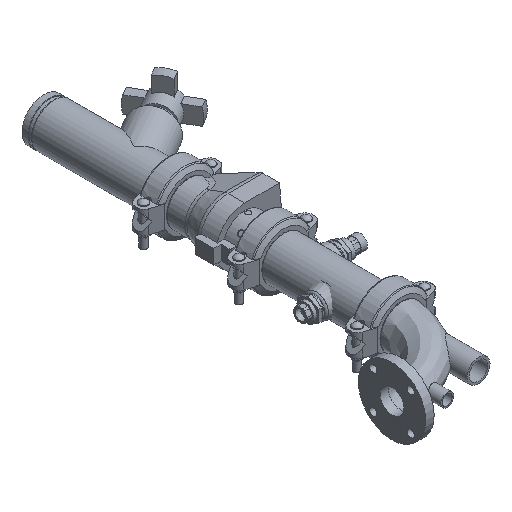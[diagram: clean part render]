
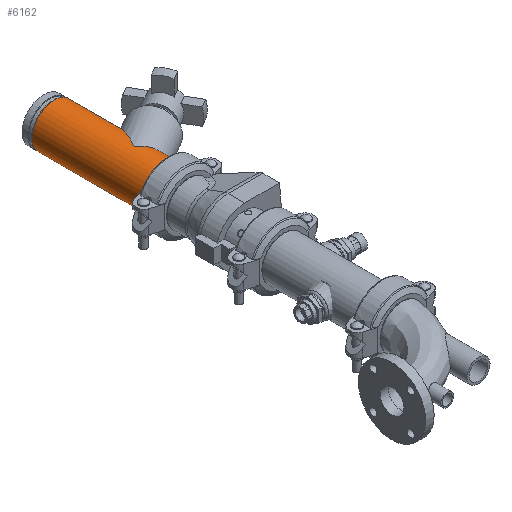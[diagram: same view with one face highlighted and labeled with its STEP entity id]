
A CAD part, isometric view. The second image highlights one B-rep face of the part: STEP entity #6162.
In plain terms, the highlighted cylindrical face has radius 57.15 mm (diameter 114.3 mm), a full revolution.
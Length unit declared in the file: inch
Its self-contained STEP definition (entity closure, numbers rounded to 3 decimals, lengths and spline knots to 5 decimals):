
#126=ELLIPSE('',#6725,4.5,2.25);
#127=ELLIPSE('',#6726,2.59808,2.25);
#128=ELLIPSE('',#6729,2.59808,2.25);
#129=ELLIPSE('',#6730,4.5,2.25);
#217=LINE('',#9472,#668);
#218=LINE('',#9478,#669);
#668=VECTOR('',#7581,2.25);
#669=VECTOR('',#7586,2.25);
#1090=CYLINDRICAL_SURFACE('',#6722,2.25);
#1292=FACE_OUTER_BOUND('',#1637,.T.);
#1637=EDGE_LOOP('',(#3981,#3982,#3983,#3984,#3985,#3986,#3987,#3988,#3989,
#3990,#3991,#3992));
#2051=CIRCLE('',#6723,2.25);
#2052=CIRCLE('',#6724,2.25);
#2053=CIRCLE('',#6727,2.25);
#2054=CIRCLE('',#6728,2.25);
#2419=VERTEX_POINT('',#9467);
#2420=VERTEX_POINT('',#9468);
#2421=VERTEX_POINT('',#9471);
#2422=VERTEX_POINT('',#9473);
#2423=VERTEX_POINT('',#9475);
#2424=VERTEX_POINT('',#9477);
#2425=VERTEX_POINT('',#9479);
#2426=VERTEX_POINT('',#9482);
#3036=EDGE_CURVE('',#2419,#2420,#2051,.T.);
#3037=EDGE_CURVE('',#2420,#2419,#2052,.T.);
#3038=EDGE_CURVE('',#2420,#2421,#217,.T.);
#3039=EDGE_CURVE('',#2421,#2422,#126,.T.);
#3040=EDGE_CURVE('',#2422,#2423,#127,.T.);
#3041=EDGE_CURVE('',#2423,#2424,#218,.T.);
#3042=EDGE_CURVE('',#2424,#2425,#2053,.T.);
#3043=EDGE_CURVE('',#2425,#2424,#2054,.T.);
#3044=EDGE_CURVE('',#2423,#2426,#128,.T.);
#3045=EDGE_CURVE('',#2426,#2421,#129,.T.);
#3981=ORIENTED_EDGE('',*,*,#3036,.F.);
#3982=ORIENTED_EDGE('',*,*,#3037,.F.);
#3983=ORIENTED_EDGE('',*,*,#3038,.T.);
#3984=ORIENTED_EDGE('',*,*,#3039,.T.);
#3985=ORIENTED_EDGE('',*,*,#3040,.T.);
#3986=ORIENTED_EDGE('',*,*,#3041,.T.);
#3987=ORIENTED_EDGE('',*,*,#3042,.T.);
#3988=ORIENTED_EDGE('',*,*,#3043,.T.);
#3989=ORIENTED_EDGE('',*,*,#3041,.F.);
#3990=ORIENTED_EDGE('',*,*,#3044,.T.);
#3991=ORIENTED_EDGE('',*,*,#3045,.T.);
#3992=ORIENTED_EDGE('',*,*,#3038,.F.);
#6162=ADVANCED_FACE('',(#1292),#1090,.T.);
#6722=AXIS2_PLACEMENT_3D('',#9466,#7575,#7576);
#6723=AXIS2_PLACEMENT_3D('',#9469,#7577,#7578);
#6724=AXIS2_PLACEMENT_3D('',#9470,#7579,#7580);
#6725=AXIS2_PLACEMENT_3D('',#9474,#7582,#7583);
#6726=AXIS2_PLACEMENT_3D('',#9476,#7584,#7585);
#6727=AXIS2_PLACEMENT_3D('',#9480,#7587,#7588);
#6728=AXIS2_PLACEMENT_3D('',#9481,#7589,#7590);
#6729=AXIS2_PLACEMENT_3D('',#9483,#7591,#7592);
#6730=AXIS2_PLACEMENT_3D('',#9484,#7593,#7594);
#7575=DIRECTION('center_axis',(1.,0.,0.));
#7576=DIRECTION('ref_axis',(0.,1.,0.));
#7577=DIRECTION('center_axis',(1.,0.,0.));
#7578=DIRECTION('ref_axis',(0.,0.,-1.));
#7579=DIRECTION('center_axis',(1.,0.,0.));
#7580=DIRECTION('ref_axis',(0.,0.,-1.));
#7581=DIRECTION('',(-1.,0.,0.));
#7582=DIRECTION('center_axis',(0.5,0.866,0.));
#7583=DIRECTION('ref_axis',(-0.866,0.5,0.));
#7584=DIRECTION('center_axis',(-0.866,0.5,0.));
#7585=DIRECTION('ref_axis',(-0.5,-0.866,0.));
#7586=DIRECTION('',(-1.,0.,0.));
#7587=DIRECTION('center_axis',(1.,0.,0.));
#7588=DIRECTION('ref_axis',(0.,0.,-1.));
#7589=DIRECTION('center_axis',(1.,0.,0.));
#7590=DIRECTION('ref_axis',(0.,0.,-1.));
#7591=DIRECTION('center_axis',(-0.866,0.5,0.));
#7592=DIRECTION('ref_axis',(-0.5,-0.866,0.));
#7593=DIRECTION('center_axis',(0.5,0.866,0.));
#7594=DIRECTION('ref_axis',(-0.866,0.5,0.));
#9466=CARTESIAN_POINT('Origin',(0.,0.,0.));
#9467=CARTESIAN_POINT('',(5.875,2.25,0.));
#9468=CARTESIAN_POINT('',(5.875,-2.25,0.));
#9469=CARTESIAN_POINT('Origin',(5.875,0.,0.));
#9470=CARTESIAN_POINT('Origin',(5.875,0.,0.));
#9471=CARTESIAN_POINT('',(1.35625,-2.25,0.));
#9472=CARTESIAN_POINT('',(0.,-2.25,0.));
#9473=CARTESIAN_POINT('',(-2.54086,0.,-2.25));
#9474=CARTESIAN_POINT('Origin',(-2.54086,0.,
0.));
#9475=CARTESIAN_POINT('',(-3.8399,-2.25,0.));
#9476=CARTESIAN_POINT('Origin',(-2.54086,0.,
0.));
#9477=CARTESIAN_POINT('',(-5.875,-2.25,0.));
#9478=CARTESIAN_POINT('',(0.,-2.25,0.));
#9479=CARTESIAN_POINT('',(-5.875,2.25,0.));
#9480=CARTESIAN_POINT('Origin',(-5.875,0.,0.));
#9481=CARTESIAN_POINT('Origin',(-5.875,0.,0.));
#9482=CARTESIAN_POINT('',(-2.54086,0.,2.25));
#9483=CARTESIAN_POINT('Origin',(-2.54086,0.,
0.));
#9484=CARTESIAN_POINT('Origin',(-2.54086,0.,
0.));
